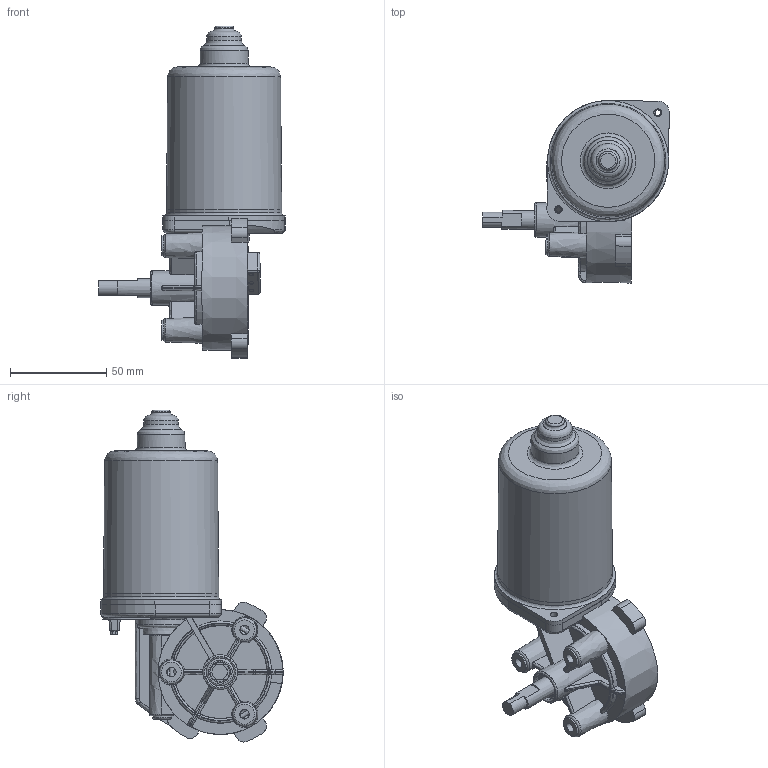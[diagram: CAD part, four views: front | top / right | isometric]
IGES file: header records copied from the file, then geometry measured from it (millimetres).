
Global section: file name: No Iges File Name specified; native system: AutoDesk Inventor R5.0; preprocessor: AutoDesk Inventor Iges Exporter R5.0; author: No Author specified; organization: No Organization specified; date: 20020712.102310; units: millimetre
Bounding box: 97.13 x 95.06 x 172.89 mm (x, y, z)
Surface area: 74808.9 mm2 (no closed solid volume)
Topology: 0 solids, 1 shells, 458 faces, 2286 edges, 2206 vertices
Faces by surface type: plane 214, revolution 199, bspline 45
